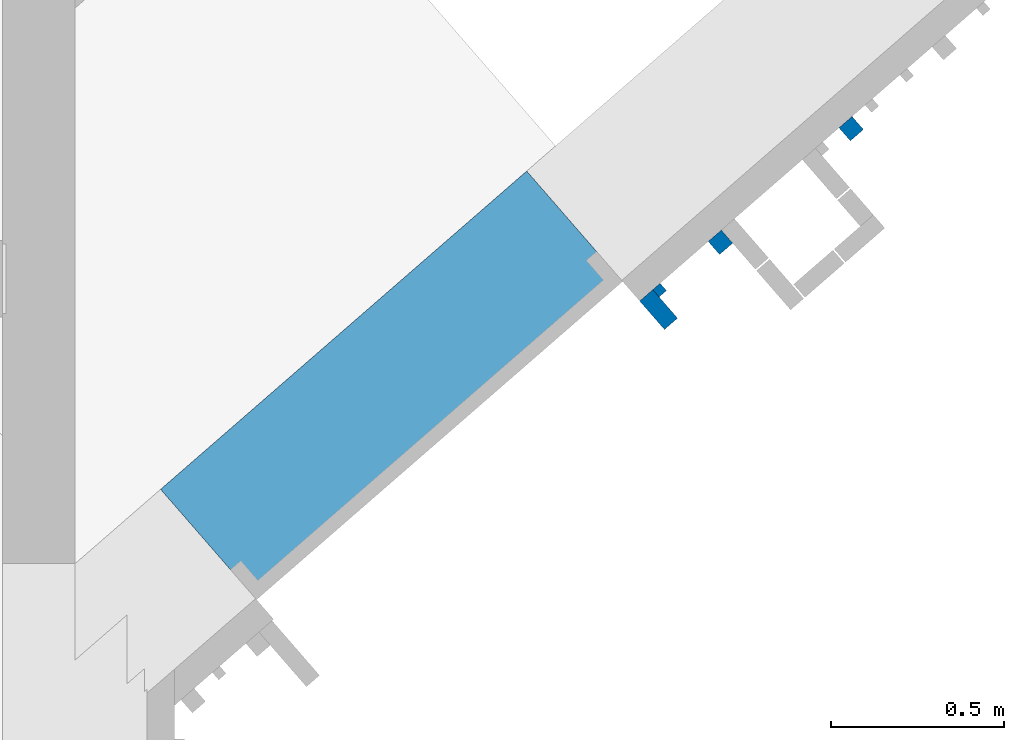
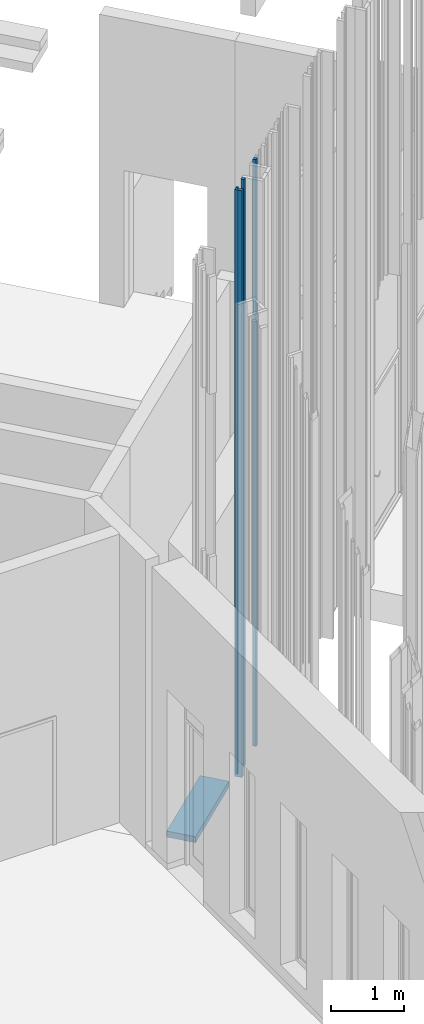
# One storey, part 196 of 390: 5 walls.
"""IFC2X3 building model written with IfcOpenShell, lengths in millimetres."""

from ifc_helpers import new_model, entity, si_unit, converted_unit, derived_unit, money_unit, direction, frame, origin_with_axes, place, context, subcontext, project, spatial, faceted_brep, material, material_list, type_object, element, save


model = new_model("IFC2X3")

# Units and contexts
model_context = context("Model", 3, precision=1e-05, world=origin_with_axes(), true_north=direction((0.0, 1.0)))
body_context = subcontext(model_context, "Body", "Model", "MODEL_VIEW")
ifc_project = project(units=[si_unit("LENGTHUNIT", "METRE", prefix="MILLI"), si_unit("AREAUNIT", "SQUARE_METRE"), si_unit("VOLUMEUNIT", "CUBIC_METRE"), converted_unit("PLANEANGLEUNIT", "DEGREE", entity("IfcPlaneAngleMeasure", 0.0174532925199), si_unit("PLANEANGLEUNIT", "RADIAN"), dimensions=[0, 0, 0, 0, 0, 0, 0]), si_unit("SOLIDANGLEUNIT", "STERADIAN"), money_unit("EUR"), converted_unit("TIMEUNIT", "Year", entity("IfcTimeMeasure", 31556926.0), si_unit("TIMEUNIT", "SECOND"), dimensions=[0, 0, 1, 0, 0, 0, 0]), si_unit("MASSUNIT", "GRAM", prefix="KILO"), si_unit("THERMODYNAMICTEMPERATUREUNIT", "DEGREE_CELSIUS"), si_unit("LUMINOUSINTENSITYUNIT", "LUMEN"), si_unit("ENERGYUNIT", "JOULE", prefix="MEGA"), derived_unit("THERMALCONDUCTANCEUNIT", [(si_unit("POWERUNIT", "WATT"), 1), (si_unit("LENGTHUNIT", "METRE"), -1), (si_unit("THERMODYNAMICTEMPERATUREUNIT", "KELVIN"), -1)]), derived_unit("SPECIFICHEATCAPACITYUNIT", [(si_unit("ENERGYUNIT", "JOULE"), 1), (si_unit("MASSUNIT", "GRAM", prefix="KILO"), -1), (si_unit("THERMODYNAMICTEMPERATUREUNIT", "KELVIN"), -1)]), derived_unit("MASSDENSITYUNIT", [(si_unit("MASSUNIT", "GRAM", prefix="KILO"), 1), (si_unit("VOLUMEUNIT", "CUBIC_METRE"), -1)])], contexts=[model_context])

# Site, building, storey
site_placement = place(None, origin_with_axes())
site = spatial("IfcSite", under=ifc_project, at=site_placement, Name="Site", CompositionType="ELEMENT")
building_placement = place(site_placement, origin_with_axes())
building = spatial("IfcBuilding", under=site, at=building_placement, Name="Building", CompositionType="ELEMENT")
storey_placement = place(building_placement, origin_with_axes())
storey = spatial("IfcBuildingStorey", under=building, at=storey_placement, Name="1 korrus", CompositionType="ELEMENT", Elevation=0.0)

# Walls
ifc_material_1 = material(Name="Plaat - Sein")
ifc_material_2 = material(Name="Soojustus - Plastik Kõva")
ifc_material_3 = material(Name="Raudbetoon - Konstruktsioon")
ifc_material_4 = material(Name="Krohv - Lubjakivi")
ifc_material_list = material_list([ifc_material_1, ifc_material_2, ifc_material_2, ifc_material_3, ifc_material_4])
wall_type_1 = type_object("IfcWallType", Name="VS-03", PredefinedType="NOTDEFINED")
wall_1_placement = place(storey_placement, frame((140803.188971, 67720.6170955, -100.0), z_axis=(0.0, 0.0, 1.0), x_axis=(-0.754709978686, -0.656058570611, 0.0)))
element("IfcWall", 1, at=wall_1_placement, inside=storey, type_object=wall_type_1, material=ifc_material_list, Name="VS-05", context=body_context, shape_type="Brep", body=[
    faceted_brep([(1400.0000571, 418.0, 0.0), (1400.0000571, 410.0, 0.0), (0.0, 410.0, 0.0), (0.0, 418.0, 0.0), (1400.0000571, 418.0, 100.0), (1400.0000571, 410.0, 100.0), (0.0, 410.0, 100.0), (0.0, 418.0, 100.0)], [[[0, 1, 2, 3]], [[0, 4, 5, 1]], [[1, 5, 6, 2]], [[3, 2, 6, 7]], [[4, 0, 3, 7]], [[5, 4, 7, 6]]]),
    faceted_brep([(1400.0000571, 410.0, 0.0), (1400.0000571, 360.0, 0.0), (0.0, 360.0, 0.0), (0.0, 410.0, 0.0), (1400.0000571, 410.0, 100.0), (1400.0000571, 360.0, 100.0), (0.0, 360.0, 100.0), (0.0, 410.0, 100.0)], [[[0, 1, 2, 3]], [[0, 4, 5, 1]], [[1, 5, 6, 2]], [[3, 2, 6, 7]], [[4, 0, 3, 7]], [[5, 4, 7, 6]]]),
    faceted_brep([(1400.0000571, 360.0, 0.0), (1400.0000571, 210.0, 0.0), (0.0, 210.0, 0.0), (0.0, 360.0, 0.0), (1400.0000571, 360.0, 100.0), (1400.0000571, 210.0, 100.0), (0.0, 210.0, 100.0), (0.0, 360.0, 100.0)], [[[0, 1, 2, 3]], [[0, 4, 5, 1]], [[1, 5, 6, 2]], [[3, 2, 6, 7]], [[4, 0, 3, 7]], [[5, 4, 7, 6]]]),
    faceted_brep([(1400.0000571, 210.0, 0.0), (1400.0000571, 10.0, 0.0), (0.0, 10.0, 0.0), (0.0, 210.0, 0.0), (1400.0000571, 210.0, 100.0), (1400.0000571, 10.0, 100.0), (0.0, 10.0, 100.0), (0.0, 210.0, 100.0)], [[[0, 1, 2, 3]], [[0, 4, 5, 1]], [[1, 5, 6, 2]], [[3, 2, 6, 7]], [[4, 0, 3, 7]], [[5, 4, 7, 6]]]),
    faceted_brep([(1400.0000571, 10.0, 0.0), (1400.0000571, 0.0, 0.0), (0.0, 0.0, 0.0), (0.0, 10.0, 0.0), (1400.0000571, 10.0, 100.0), (1400.0000571, 0.0, 100.0), (0.0, 0.0, 100.0), (0.0, 10.0, 100.0)], [[[0, 1, 2, 3]], [[0, 4, 5, 1]], [[1, 5, 6, 2]], [[3, 2, 6, 7]], [[4, 0, 3, 7]], [[5, 4, 7, 6]]]),
])
ifc_material_5 = material(Name="Site specified")
wall_type_2 = type_object("IfcWallType", Name="Puitfassaadi ribistik", PredefinedType="NOTDEFINED")
wall_2_placement = place(storey_placement, frame((141362.252576, 67514.948044, 100.0), z_axis=(0.0, 0.0, 1.0), x_axis=(-0.754709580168, -0.656059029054, 0.0)))
element("IfcWall", 2, at=wall_2_placement, inside=storey, type_object=wall_type_2, material=ifc_material_5, Name="Site specified", context=body_context, shape_type="Brep", body=[
    faceted_brep([(-25.0, -25.0, 9765.0), (-25.0, -25.0, 0.0), (25.0, -25.0, 0.0), (25.0, -25.0, 9765.0), (-25.0, 25.0, 9765.0), (-25.0, 25.0, 0.0), (25.0, 25.0, 0.0), (25.0, 25.0, 9765.0)], [[[0, 1, 2, 3]], [[4, 5, 1, 0]], [[2, 1, 5, 6]], [[3, 2, 6, 7]], [[4, 0, 3, 7]], [[7, 6, 5, 4]]]),
])
wall_3_placement = place(storey_placement, frame((141186.735709, 67376.9487025, 100.0), z_axis=(0.0, 0.0, 1.0), x_axis=(-0.754709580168, -0.656059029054, 0.0)))
element("IfcWall", 3, at=wall_3_placement, inside=storey, type_object=wall_type_2, material=ifc_material_5, Name="Site specified", context=body_context, shape_type="Brep", body=[
    faceted_brep([(-14.0, -14.0, 9765.0), (-14.0, -14.0, 0.0), (14.0, -14.0, 0.0), (14.0, -14.0, 9765.0), (-14.0, 14.0, 9765.0), (-14.0, 14.0, 0.0), (14.0, 14.0, 0.0), (14.0, 14.0, 9765.0)], [[[0, 1, 2, 3]], [[4, 5, 1, 0]], [[2, 1, 5, 6]], [[3, 2, 6, 7]], [[4, 0, 3, 7]], [[7, 6, 5, 4]]]),
])
wall_4_placement = place(storey_placement, frame((141739.60739, 67842.9775795, 100.0), z_axis=(0.0, 0.0, 1.0), x_axis=(-0.754709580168, -0.656059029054, 0.0)))
element("IfcWall", 4, at=wall_4_placement, inside=storey, type_object=wall_type_2, material=ifc_material_5, Name="Site specified", context=body_context, shape_type="Brep", body=[
    faceted_brep([(-25.0, -25.0, 9765.0), (-25.0, -25.0, 0.0), (25.0, -25.0, 0.0), (25.0, -25.0, 9765.0), (-25.0, 25.0, 9765.0), (-25.0, 25.0, 0.0), (25.0, 25.0, 0.0), (25.0, 25.0, 9765.0)], [[[0, 1, 2, 3]], [[4, 5, 1, 0]], [[2, 1, 5, 6]], [[3, 2, 6, 7]], [[4, 0, 3, 7]], [[7, 6, 5, 4]]]),
])
wall_5_placement = place(storey_placement, frame((141183.872427, 67320.7966624, 100.0), z_axis=(0.0, 0.0, 1.0), x_axis=(-0.754709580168, -0.656059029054, 0.0)))
element("IfcWall", 5, at=wall_5_placement, inside=storey, type_object=wall_type_2, material=ifc_material_5, Name="Site specified", context=body_context, shape_type="Brep", body=[
    faceted_brep([(-25.0, -54.5, 9765.0), (-25.0, -54.5, 0.0), (25.0, -54.5, 0.0), (25.0, -54.5, 9765.0), (-25.0, 54.5, 9765.0), (-25.0, 54.5, 0.0), (25.0, 54.5, 0.0), (25.0, 54.5, 9765.0)], [[[0, 1, 2, 3]], [[4, 5, 1, 0]], [[2, 1, 5, 6]], [[3, 2, 6, 7]], [[4, 0, 3, 7]], [[7, 6, 5, 4]]]),
])

save(model, "model.ifc")
